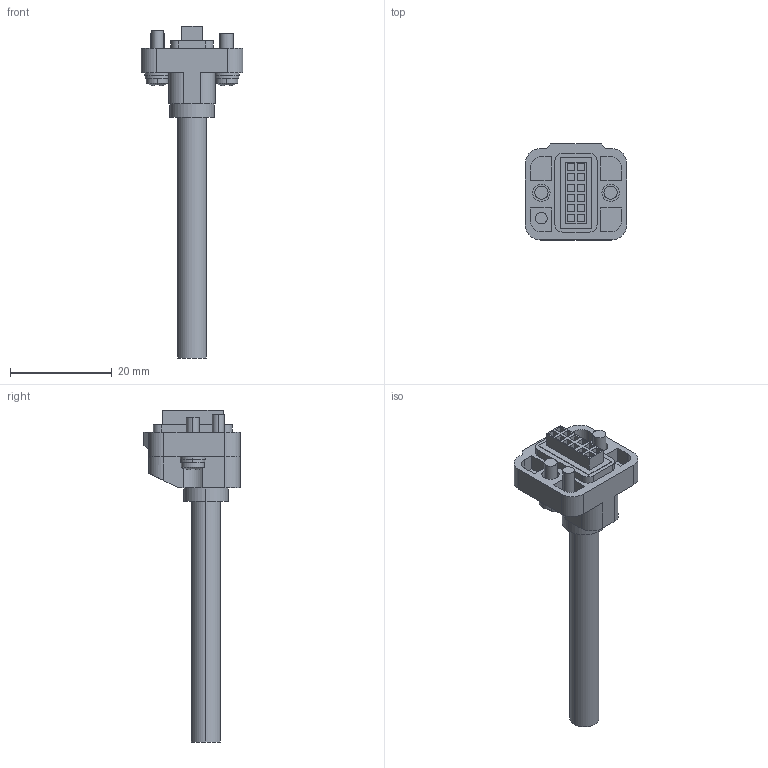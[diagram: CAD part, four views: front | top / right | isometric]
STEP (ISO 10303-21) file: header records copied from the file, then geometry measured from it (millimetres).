
FILE_DESCRIPTION (( 'STEP AP203' ), '1' );
FILE_NAME ('cn-8a-c2.STEP', '2024-01-16T04:26:56', ( '' ), ( '' ), 'SwSTEP 2.0', 'SolidWorks 2022', '' );
FILE_SCHEMA (( 'CONFIG_CONTROL_DESIGN' ));
Length unit declared in the file: millimetre
Products named in the file (1): cn-8a-c2
Bounding box: 20 x 18.9 x 65.35 mm (x, y, z)
Volume: 4088.8 mm3; surface area: 3207.1 mm2
Topology: 1 solids, 1 shells, 198 faces, 488 edges, 324 vertices
Faces by surface type: plane 149, cylinder 45, torus 4
Entity records: 5917 total; most frequent: CARTESIAN_POINT 1101, ORIENTED_EDGE 976, DIRECTION 948, EDGE_CURVE 488, LINE 366, VECTOR 366, VERTEX_POINT 324, AXIS2_PLACEMENT_3D 291
